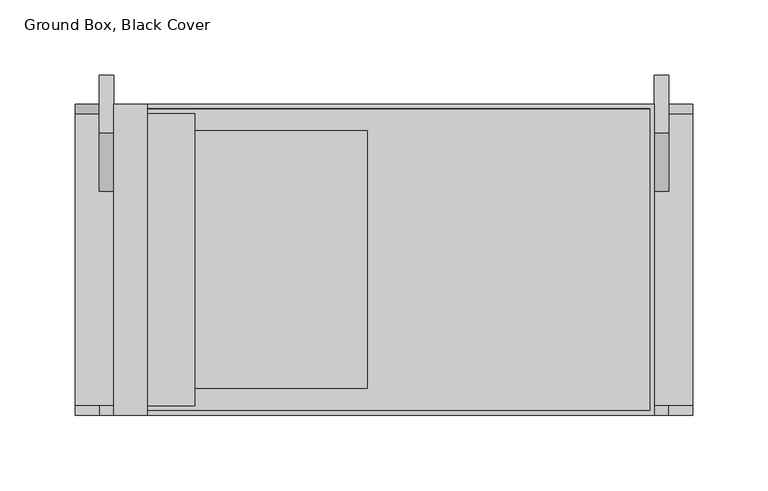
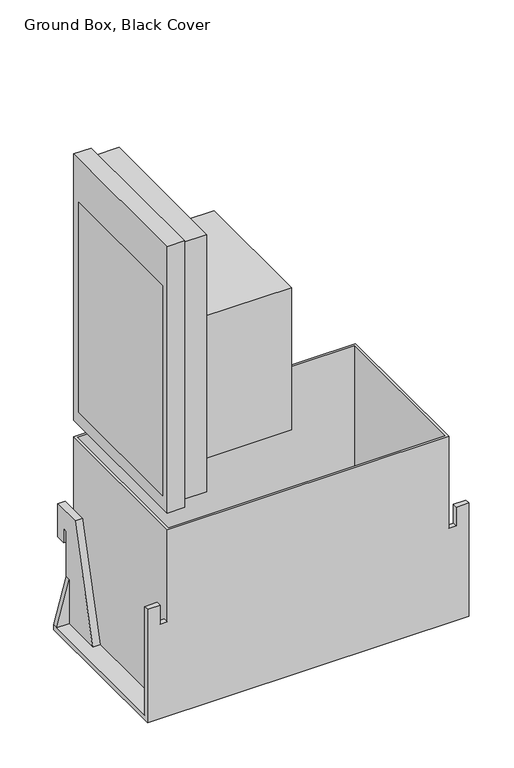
"""IFC4 building model written with IfcOpenShell, lengths in millimetres: proxy geometry, Ground_Box-Outdoor-Wiremold : Ground Box, Black Cover."""

import ifcopenshell
import ifcopenshell.guid

model = None  # the IFC model being written
_history = None  # IfcOwnerHistory: only IFC2X3 demands one
_inside = {}  # id of a spatial element -> (the spatial element, [elements in it])
_under = {}  # id of a project, library or spatial element -> (it, [spatial elements below it])
_declared = {}  # id of a project -> (the project, [libraries it declares])
_typed = {}  # id of a type object -> (the type object, [elements of that type])
_made_of = {}  # id of a material, layer set ... -> (it, [elements and type objects made of it])


def new_model(schema):
    """Start an empty IFC model of exactly this schema.

    Asked for "IFC4X3", IfcOpenShell would pick the latest addendum, in which some entities
    have other attributes; the version numbers below select the first issue.
    IFC2X3 requires an IfcOwnerHistory on every rooted entity: one is made here for all.
    """
    global model, _history
    if schema == "IFC4X3":
        model = ifcopenshell.file(schema_version=(4, 3, 0, 0))
    else:
        model = ifcopenshell.file(schema=schema)
    _inside.clear()
    _under.clear()
    _declared.clear()
    _typed.clear()
    _made_of.clear()
    _history = None
    if model.schema == "IFC2X3":
        org = make("IfcOrganization", Name="unknown")
        user = make(
            "IfcPersonAndOrganization",
            ThePerson=make("IfcPerson", FamilyName="unknown"),
            TheOrganization=org,
        )
        app = make(
            "IfcApplication",
            ApplicationDeveloper=org,
            Version="unknown",
            ApplicationFullName="unknown",
            ApplicationIdentifier="unknown",
        )
        _history = make(
            "IfcOwnerHistory",
            OwningUser=user,
            OwningApplication=app,
            ChangeAction="ADDED",
            CreationDate=0,
        )
    return model


def make(cls, **values):
    """One entity of the class cls with the attributes given. An attribute that is None is left unset."""
    return model.create_entity(
        cls, **{name: value for name, value in values.items() if value is not None}
    )


def rooted(cls, **values):
    """An entity with a GlobalId (a new one), such as an element, a storey or a relation."""
    return make(cls, GlobalId=ifcopenshell.guid.new(), OwnerHistory=_history, **values)


def si_unit(unit_type, name, prefix=None):
    """IfcSIUnit, for example si_unit("LENGTHUNIT", "METRE", prefix="MILLI")."""
    return make("IfcSIUnit", UnitType=unit_type, Prefix=prefix, Name=name)


def assignment(units):
    """IfcUnitAssignment: the units of a project."""
    return None if units is None else make("IfcUnitAssignment", Units=units)


def point(xyz):
    """IfcCartesianPoint."""
    return None if xyz is None else make("IfcCartesianPoint", Coordinates=xyz)


def direction(xyz):
    """IfcDirection."""
    return None if xyz is None else make("IfcDirection", DirectionRatios=xyz)


def frame(location, z_axis=None, x_axis=None):
    """IfcAxis2Placement3D, a coordinate frame: its origin and axes. An axis left out is left unset."""
    return make(
        "IfcAxis2Placement3D",
        Location=point(location),
        Axis=direction(z_axis),
        RefDirection=direction(x_axis),
    )


def origin():
    """The frame at (0, 0, 0) with its axes left unset."""
    return frame((0.0, 0.0, 0.0))


def place(relative_to, where):
    """IfcLocalPlacement: puts the frame where relative to a parent placement (None: the world)."""
    return make(
        "IfcLocalPlacement", PlacementRelTo=relative_to, RelativePlacement=where
    )


def context(
    kind, dimensions, precision=None, world=None, true_north=None, identifier=None
):
    """IfcGeometricRepresentationContext, for example the 3D "Model" context."""
    return make(
        "IfcGeometricRepresentationContext",
        ContextIdentifier=identifier,
        ContextType=kind,
        CoordinateSpaceDimension=dimensions,
        Precision=precision,
        WorldCoordinateSystem=world,
        TrueNorth=true_north,
    )


def project(units=None, contexts=None):
    """IfcProject with its units and contexts."""
    return rooted(
        "IfcProject",
        Name="project",
        RepresentationContexts=contexts,
        UnitsInContext=assignment(units),
    )


def spatial(cls, under=None, at=None, **own):
    """A site, building, storey or space (cls), placed at a placement, below another one or the project."""
    s = rooted(cls, ObjectPlacement=at, **own)
    if under is not None:
        _under.setdefault(under.id(), (under, []))[1].append(s)
    return s


def polyline(points):
    """IfcPolyline through the points."""
    return make("IfcPolyline", Points=[point(p) for p in points])


def outline(outer, holes=None, kind="AREA"):
    """IfcArbitraryClosedProfileDef: a profile drawn as a closed curve; with holes, ...WithVoids."""
    if holes is None:
        return make("IfcArbitraryClosedProfileDef", ProfileType=kind, OuterCurve=outer)
    return make(
        "IfcArbitraryProfileDefWithVoids",
        ProfileType=kind,
        OuterCurve=outer,
        InnerCurves=holes,
    )


def extrude(swept, where, along, depth):
    """IfcExtrudedAreaSolid: the profile swept, set in the frame where, extruded along a direction by depth."""
    return make(
        "IfcExtrudedAreaSolid",
        SweptArea=swept,
        Position=where,
        ExtrudedDirection=direction(along),
        Depth=depth,
    )


def faces_of(points, faces, orient=None, outer=None):
    """IfcFace entities. A face is a list of loops; a loop is a list of indices into points, from 0.

    orient and outer hold one flag for each loop. By default every Orientation is true, the
    first loop of a face is its IfcFaceOuterBound and the others are IfcFaceBound.
    """
    made = []
    for i, loops in enumerate(faces):
        bounds = []
        for j, loop in enumerate(loops):
            is_outer = j == 0 if outer is None else outer[i][j]
            bounds.append(
                make(
                    "IfcFaceOuterBound" if is_outer else "IfcFaceBound",
                    Bound=make("IfcPolyLoop", Polygon=[points[k] for k in loop]),
                    Orientation=True if orient is None else orient[i][j],
                )
            )
        made.append(make("IfcFace", Bounds=bounds))
    return made


def faceted_brep(points, faces, orient=None, outer=None, voids=None):
    """IfcFacetedBrep: a solid bounded by flat faces; with voids (closed shells), ...WithVoids."""
    shared = [point(p) for p in points]
    hull = make("IfcClosedShell", CfsFaces=faces_of(shared, faces, orient, outer))
    if voids is None:
        return make("IfcFacetedBrep", Outer=hull)
    return make(
        "IfcFacetedBrepWithVoids",
        Outer=hull,
        Voids=[
            make(cls, CfsFaces=faces_of(shared, fs, o, b)) for cls, fs, o, b in voids
        ],
    )


def shape(context_of_items, identifier, shape_type, items):
    """IfcShapeRepresentation: the items that make up one representation, for example the "Body"."""
    return make(
        "IfcShapeRepresentation",
        ContextOfItems=context_of_items,
        RepresentationIdentifier=identifier,
        RepresentationType=shape_type,
        Items=items,
    )


def source(mapping_origin, context_of_items, identifier, shape_type, items):
    """IfcRepresentationMap: a shape defined once, which mapped items show again and again."""
    return make(
        "IfcRepresentationMap",
        MappingOrigin=mapping_origin,
        MappedRepresentation=shape(context_of_items, identifier, shape_type, items),
    )


def transform(
    local_origin,
    x_axis=None,
    y_axis=None,
    z_axis=None,
    scale=None,
    scale2=None,
    scale3=None,
    uniform=True,
):
    """IfcCartesianTransformationOperator3D, or its non-uniform kind. x_axis, y_axis, z_axis: its Axis1, 2, 3."""
    if uniform:
        return make(
            "IfcCartesianTransformationOperator3D",
            Axis1=direction(x_axis),
            Axis2=direction(y_axis),
            LocalOrigin=point(local_origin),
            Scale=scale,
            Axis3=direction(z_axis),
        )
    return make(
        "IfcCartesianTransformationOperator3DnonUniform",
        Axis1=direction(x_axis),
        Axis2=direction(y_axis),
        LocalOrigin=point(local_origin),
        Scale=scale,
        Axis3=direction(z_axis),
        Scale2=scale2,
        Scale3=scale3,
    )


def mapped(mapping_source, mapping_target):
    """IfcMappedItem: shows the shape of a source again, moved by a transform."""
    return make(
        "IfcMappedItem", MappingSource=mapping_source, MappingTarget=mapping_target
    )


def made_of(thing, what):
    """Note that an element or type object is made of a material, layer set ...; save() writes the relation."""
    if what is not None:
        _made_of.setdefault(what.id(), (what, []))[1].append(thing)
    return thing


def element(
    cls,
    number,
    at=None,
    inside=None,
    cuts=None,
    type_object=None,
    material=None,
    context=None,
    identifier="Body",
    shape_type=None,
    held_by="IfcProductDefinitionShape",
    body=None,
    shapes=None,
    **own,
):
    """One element of the class cls, such as IfcWall. Its Tag is "e" and its number.

    at: its placement. inside: the storey or other place that contains it. cuts: it is an
    opening in that element (IfcRelVoidsElement). A single representation is given by context,
    identifier, shape_type and body (its items); several are given by shapes. held_by: the class
    of the entity that holds the representations. save() writes the other relations.
    """
    e = rooted(cls, Tag="e%d" % number, ObjectPlacement=at, **own)
    if body is not None:
        shapes = [shape(context, identifier, shape_type, body)]
    if shapes is not None:
        e.Representation = make(held_by, Representations=shapes)
    if inside is not None:
        _inside.setdefault(inside.id(), (inside, []))[1].append(e)
    if cuts is not None:
        rooted(
            "IfcRelVoidsElement", RelatingBuildingElement=cuts, RelatedOpeningElement=e
        )
    if type_object is not None:
        _typed.setdefault(type_object.id(), (type_object, []))[1].append(e)
    return made_of(e, material)


def aggregate(whole, parts):
    """IfcRelAggregates: a whole, such as a stair, and the parts it consists of."""
    return rooted("IfcRelAggregates", RelatingObject=whole, RelatedObjects=parts)


def save(model, path):
    """Write the relations noted so far, then the file.

    IfcRelAggregates (storeys below a building ...), IfcRelContainedInSpatialStructure (elements
    in a storey), IfcRelDefinesByType, IfcRelAssociatesMaterial and IfcRelDeclares: one each for
    every whole, place, type object, material and project.
    """
    for whole, parts in _under.values():
        aggregate(whole, parts)
    for where, things in _inside.values():
        rooted(
            "IfcRelContainedInSpatialStructure",
            RelatedElements=things,
            RelatingStructure=where,
        )
    for kind, things in _typed.values():
        rooted("IfcRelDefinesByType", RelatedObjects=things, RelatingType=kind)
    for what, things in _made_of.values():
        rooted("IfcRelAssociatesMaterial", RelatedObjects=things, RelatingMaterial=what)
    for by, libraries in _declared.values():
        rooted("IfcRelDeclares", RelatingContext=by, RelatedDefinitions=libraries)
    model.write(path)


def ground_box_black_cover_7d9e8b28(model_context):
    return source(origin(), model_context, "Body", "SolidModel", [
        extrude(outline(polyline([(-179.3875, -92.5195), (-179.3875, 92.5195), (-173.0375, 92.5195), (-173.0375, -92.5195), (-179.3875, -92.5195)])), frame((0.0, 0.0, 17.018), z_axis=(0.0, 0.0, 1.0), x_axis=(1.0, 0.0, 0.0)), (0.0, 0.0, 1.0), 282.829),
        faceted_brep([(-179.3875, 103.1875, 358.775), (-179.3875, 103.1875, 0.0), (-179.3875, -103.1875, 0.0), (-179.3875, -103.1875, 358.775), (-179.3875, 92.5195, 17.018), (-179.3875, 92.5195, 299.847), (-179.3875, -92.5195, 299.847), (-179.3875, -92.5195, 17.018), (-157.1625, 103.1875, 358.775), (-157.1625, -103.1875, 358.775), (-157.1625, -103.1875, 0.0), (-157.1625, 103.1875, 0.0), (-173.0375, 92.5195, 299.847), (-173.0375, 92.5195, 17.018), (-173.0375, -92.5195, 17.018), (-173.0375, -92.5195, 299.847)], [[[0, 1, 2, 3], [4, 5, 6, 7]], [[8, 9, 10, 11]], [[1, 0, 8, 11]], [[2, 1, 11, 10]], [[3, 2, 10, 9]], [[0, 3, 9, 8]], [[12, 13, 14, 15]], [[13, 12, 5, 4]], [[14, 13, 4, 7]], [[15, 14, 7, 6]], [[12, 15, 6, 5]]]),
        extrude(outline(polyline([(-125.4125, -55.118), (-125.4125, 55.118), (-119.0625, 55.118), (-119.0625, -55.118), (-125.4125, -55.118)])), frame((0.0, 0.0, 107.442), z_axis=(0.0, 0.0, 1.0), x_axis=(1.0, 0.0, 0.0)), (0.0, 0.0, 1.0), 108.712),
        extrude(outline(polyline([(85.4075, 234.188), (85.4075, 42.418), (-85.4075, 42.418), (-85.4075, 234.188), (85.4075, 234.188)]), holes=[polyline([(79.0575, 227.838), (-79.0575, 227.838), (-79.0575, 48.768), (79.0575, 48.768), (79.0575, 227.838)])]), frame((-125.4125, 0.0, 0.0), z_axis=(1.0, 0.0, 0.0), x_axis=(0.0, 1.0, 0.0)), (0.0, 0.0, 1.0), 114.3),
        extrude(outline(polyline([(-157.1625, -96.8375), (-157.1625, 96.8375), (-125.4125, 96.8375), (-125.4125, -96.8375), (-157.1625, -96.8375)])), frame((0.0, 0.0, 6.35), z_axis=(0.0, 0.0, 1.0), x_axis=(1.0, 0.0, 0.0)), (0.0, 0.0, 1.0), 346.075),
        faceted_brep([(-204.7875, -96.8375, -266.7), (-179.3875, -96.8375, -266.7), (-179.3875, 45.0035204, -266.7), (-188.9125, 45.0035204, -266.7), (-188.9125, 96.8375, -266.7), (-204.7875, 96.8375, -266.7), (179.3875, -96.8375, -266.7), (204.7875, -96.8375, -266.7), (204.7875, 96.8375, -266.7), (188.9125, 96.8375, -266.7), (188.9125, 45.0035204, -266.7), (179.3875, 45.0035204, -266.7), (204.7875, 103.1875, -273.05), (204.7875, 103.1875, -266.7), (204.7875, -96.8375, -120.65), (204.7875, -103.1875, -120.65), (204.7875, -103.1875, -273.05), (-204.7875, 103.1875, -266.7), (-204.7875, 103.1875, -273.05), (-204.7875, -103.1875, -273.05), (-204.7875, -103.1875, -120.65), (-204.7875, -96.8375, -120.65), (179.3875, -96.8375, -146.05), (188.9125, -96.8375, -146.05), (188.9125, -96.8375, -120.65), (-188.9125, -96.8375, -120.65), (-188.9125, -96.8375, -146.05), (-179.3875, -96.8375, -146.05), (188.9125, -103.1875, -120.65), (188.9125, -103.1875, -146.05), (179.3875, -103.1875, -146.05), (-188.9125, -103.1875, -146.05), (-179.3875, -103.1875, -146.05), (-188.9125, -103.1875, -120.65), (-188.9125, 96.8375, -207.4536934), (188.9125, 96.8375, -207.4536934), (188.9125, 103.1875, -207.4536934), (-188.9125, 103.1875, -207.4536934), (188.9125, 109.5375, -146.05), (188.9125, 109.5375, -165.1), (188.9125, 122.2375, -165.1), (188.9125, 122.2375, -120.65), (188.9125, 84.1375, -120.65), (188.9125, 103.1875, -146.05), (179.3875, 109.5375, -146.05), (179.3875, 103.1875, -146.05), (179.3875, 103.1875, -120.65), (179.3875, 122.2375, -120.65), (179.3875, 122.2375, -165.1), (179.3875, 109.5375, -165.1), (179.3875, 84.1375, -120.65), (-179.3875, 109.5375, -146.05), (-179.3875, 109.5375, -165.1), (-179.3875, 122.2375, -165.1), (-179.3875, 122.2375, -120.65), (-179.3875, 103.1875, -120.65), (-179.3875, 103.1875, -146.05), (-188.9125, 109.5375, -146.05), (-188.9125, 103.1875, -146.05), (-188.9125, 84.1375, -120.65), (-188.9125, 122.2375, -120.65), (-188.9125, 122.2375, -165.1), (-188.9125, 109.5375, -165.1), (-179.3875, 84.1375, -120.65), (179.3875, 103.1875, -22.225), (-179.3875, 103.1875, -22.225), (-179.3875, -103.1875, -22.225), (179.3875, -103.1875, -22.225), (-176.2125, 100.0125, -22.225), (176.2125, 100.0125, -22.225), (176.2125, -100.0125, -22.225), (-176.2125, -100.0125, -22.225), (176.2125, 100.0125, -266.7), (-176.2125, 100.0125, -266.7), (-176.2125, -100.0125, -266.7), (176.2125, -100.0125, -266.7)], [[[0, 1, 2, 3, 4, 5]], [[6, 7, 8, 9, 10, 11]], [[12, 13, 8, 7, 14, 15, 16]], [[17, 18, 19, 20, 21, 0, 5]], [[22, 23, 24, 14, 7, 6]], [[21, 25, 26, 27, 1, 0]], [[28, 15, 14, 24]], [[29, 28, 24, 23]], [[30, 29, 23, 22]], [[31, 32, 27, 26]], [[33, 31, 26, 25]], [[20, 33, 25, 21]], [[5, 4, 34]], [[9, 8, 35]], [[8, 13, 36, 35]], [[17, 5, 34, 37]], [[38, 39, 40, 41, 42, 10, 9, 35, 36, 43]], [[44, 45, 46, 47, 48, 49]], [[39, 38, 44, 49]], [[40, 39, 49, 48]], [[41, 40, 48, 47]], [[42, 41, 47, 46, 50]], [[10, 42, 50, 11]], [[38, 43, 45, 44]], [[51, 52, 53, 54, 55, 56]], [[57, 58, 37, 34, 4, 3, 59, 60, 61, 62]], [[52, 51, 57, 62]], [[53, 52, 62, 61]], [[54, 53, 61, 60]], [[60, 59, 63, 55, 54]], [[59, 3, 2, 63]], [[51, 56, 58, 57]], [[64, 65, 66, 67], [68, 69, 70, 71]], [[18, 12, 16, 19]], [[65, 64, 46, 45, 43, 36, 13, 12, 18, 17, 37, 58, 56, 55]], [[66, 65, 55, 63, 2, 1, 27, 32]], [[67, 66, 32, 31, 33, 20, 19, 16, 15, 28, 29, 30]], [[64, 67, 30, 22, 6, 11, 50, 46]], [[72, 73, 74, 75]], [[73, 72, 69, 68]], [[74, 73, 68, 71]], [[75, 74, 71, 70]], [[72, 75, 70, 69]]]),
    ])


if __name__ == "__main__":
    model = new_model("IFC4")
    model_context = context("Model", 3, world=origin())
    ifc_project = project(units=[si_unit("LENGTHUNIT", "METRE", prefix="MILLI")], contexts=[model_context])
    site = spatial("IfcSite", under=ifc_project)
    building = spatial("IfcBuilding", under=site)
    placement = place(None, origin())
    ground_box_black_cover_shape = ground_box_black_cover_7d9e8b28(model_context)
    element("IfcBuildingElementProxy", 1, Name="Ground_Box-Outdoor-Wiremold : Ground Box, Black Cover", ObjectType="Ground_Box-Outdoor-Wiremold : Ground Box, Black Cover", at=placement, inside=building, context=model_context, shape_type="MappedRepresentation", body=[
        mapped(ground_box_black_cover_shape, transform((0.0, 0.0, 0.0), x_axis=(1.0, 0.0, 0.0), y_axis=(0.0, 1.0, 0.0), z_axis=(0.0, 0.0, 1.0))),
    ])
    save(model, "model.ifc")
